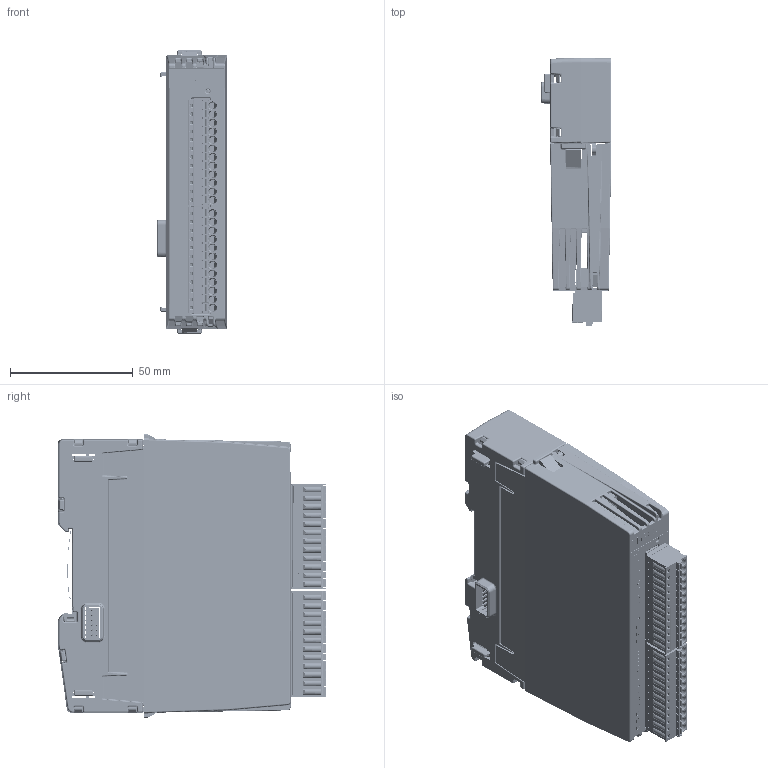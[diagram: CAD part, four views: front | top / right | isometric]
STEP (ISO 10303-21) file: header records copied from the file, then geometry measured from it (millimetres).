
FILE_DESCRIPTION(/* description */ (''),/* implementation_level */ '2;1');
FILE_NAME(/* name */ 'C:\Users\Public\Documents\Autodesk\Inventor 2023\DM20C_Simplified+BackBB21B.stp',/* time_stamp */ '2024-10-15T22:02:43+02:00',/* author */ ('shoma'),/* organization */ (''),/* preprocessor_version */ 'ST-DEVELOPER v19',/* originating_system */ 'Autodesk Inventor 2023',/* authorisation */ '');
FILE_SCHEMA (('AUTOMOTIVE_DESIGN { 1 0 10303 214 3 1 1 }'));
Products named in the file (1): DM20C_Simplified+BackBB21B
Bounding box: 28.9 x 109.39 x 115.5 mm (x, y, z)
Volume: 153432.5 mm3; surface area: 92866.8 mm2
Topology: 8 solids, 56 shells, 9295 faces, 24611 edges, 15508 vertices
Faces by surface type: plane 5590, cylinder 2391, bspline 874, cone 233, sphere 162, torus 45
Full cylindrical faces by diameter (mm): 0.296 x2, 0.3 x152, 0.457 x2, 0.7 x36, 0.8 x6, 0.85 x24, 0.9 x8, 1.17 x24, 1.2 x24, 1.25 x24, 1.3 x24, 1.4 x4, 1.6 x26, 2.35 x2, 2.5 x1, 3 x1, 3.1 x24, 3.25 x2
Entity records: 321255 total; most frequent: CARTESIAN_POINT 82752, ORIENTED_EDGE 48916, DIRECTION 45383, EDGE_CURVE 24458, LINE 17219, VECTOR 17219, VERTEX_POINT 15508, AXIS2_PLACEMENT_3D 14082
